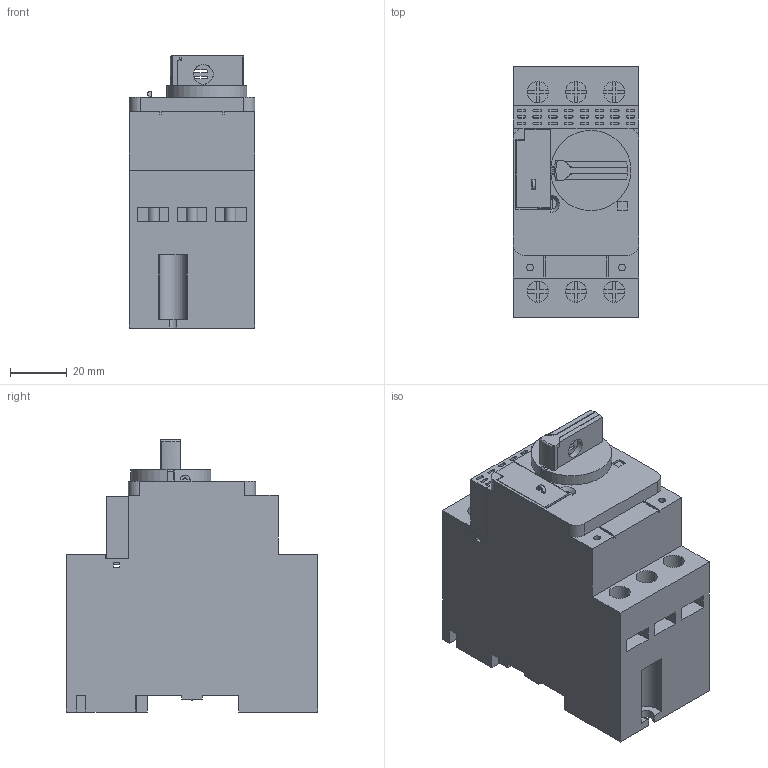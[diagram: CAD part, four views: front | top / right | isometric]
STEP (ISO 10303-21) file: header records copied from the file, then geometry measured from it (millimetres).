
FILE_DESCRIPTION((''),'2;1');
FILE_NAME('GV2P-3D_ASM','2026-06-09T14:39:08',('SESA637174'),('Schneider-Electric'),'CREO PARAMETRIC BY PTC INC, 2025093','CREO PARAMETRIC BY PTC INC, 2025093','');
FILE_SCHEMA(('AP242_MANAGED_MODEL_BASED_3D_ENGINEERING_MIM_LF { 1 0 10303 442 1 1 4 }'));
Length unit declared in the file: millimetre
Products named in the file (3): GV2P-3D-SIMPLIFIED; NNZ3960301_2; GV2P-3D_ASM
Assembly tree (2 placements, depth 2):
  GV2P-3D_ASM
    GV2P-3D-SIMPLIFIED
    NNZ3960301_2
Bounding box: 44.5 x 89 x 96.2 mm (x, y, z)
Volume: 259835.4 mm3; surface area: 44766.4 mm2
Topology: 3 solids, 3 shells, 643 faces, 1863 edges, 1233 vertices
Faces by surface type: plane 475, cylinder 95, cone 62, torus 4, extrusion 4, sphere 2, revolution 1
Entity records: 29072 total; most frequent: CARTESIAN_POINT 4063, ORIENTED_EDGE 3726, DIRECTION 3460, PRESENTATION_STYLE_ASSIGNMENT 2027, STYLED_ITEM 1871, CURVE_STYLE 1866, EDGE_CURVE 1863, VECTOR 1421
